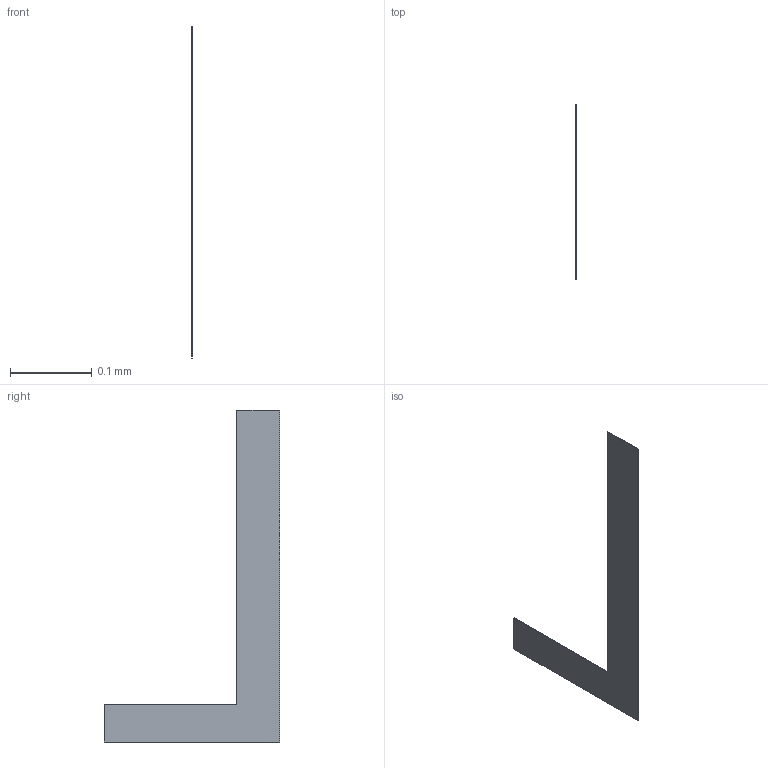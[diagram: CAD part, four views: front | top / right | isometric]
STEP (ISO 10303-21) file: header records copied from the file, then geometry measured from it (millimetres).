
FILE_DESCRIPTION(/* description */ ('STEP AP242 Edition 2','CAx-IF Rec.Pracs.---Representation and Presentation of Product Manufacturing Information (PMI)---4.0---2014-10-13','CAx-IF Rec.Pracs.---3D Tessellated Geometry---0.4---2014-09-14','2;1','CAx-IF Rec.Pracs.---User Defined Attributes---1.5---2016-08-15'),/* implementation_level */ '2;1');
FILE_NAME(/* name */ 'Assembly 1 - CONN-TH_HFBR-1521Z~CONN-TH_HFBR-1521Z~nxQB (14)',/* time_stamp */ '2026-04-02T09:55:12Z',/* author */ (''),/* organization */ (''),/* preprocessor_version */ 'ST-DEVELOPER v20',/* originating_system */ 'ONSHAPE BY PTC INC, 1.212',/* authorisation */ ' ');
FILE_SCHEMA (('AP242_MANAGED_MODEL_BASED_3D_ENGINEERING_MIM_LF { 1 0 10303 442 3 1 4 }'));
Length unit declared in the file: metre
Products named in the file (1): CONN-TH_HFBR-1521Z~CONN-TH_HFBR-1521Z~nxQB
Bounding box: 0 x 0.21 x 0.41 mm (x, y, z)
Volume: 0 mm3; surface area: 0.1 mm2
Topology: 1 solids, 1 shells, 8 faces, 18 edges, 12 vertices
Faces by surface type: plane 8
Entity records: 301 total; most frequent: CARTESIAN_POINT 39, ORIENTED_EDGE 36, DIRECTION 36, EDGE_CURVE 18, LINE 18, VECTOR 18, VERTEX_POINT 12, PRESENTATION_STYLE_ASSIGNMENT 9
